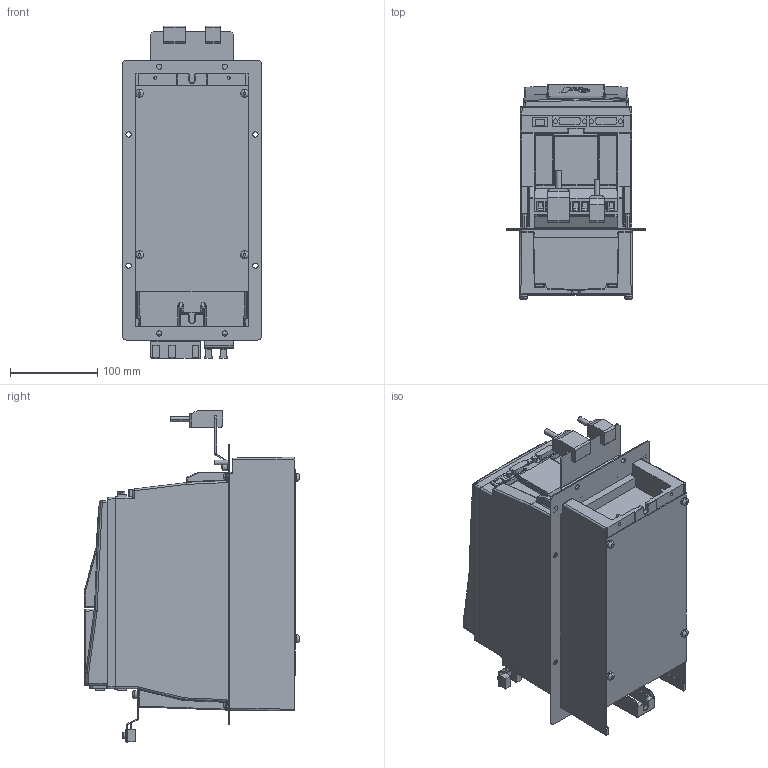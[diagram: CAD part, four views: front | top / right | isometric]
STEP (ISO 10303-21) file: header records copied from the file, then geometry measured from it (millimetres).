
FILE_DESCRIPTION (( 'STEP AP214' ), '1' );
FILE_NAME ('F6-2TR5-A0311.STEP', '2020-11-26T14:52:43', ( '' ), ( '' ), 'SwSTEP 2.0', 'SolidWorks 2019', '' );
FILE_SCHEMA (( 'AUTOMOTIVE_DESIGN' ));
Length unit declared in the file: millimetre
Products named in the file (1): F6-2TR5-A0311
Bounding box: 160 x 245.65 x 379.5 mm (x, y, z)
Volume: 7200044.5 mm3; surface area: 374014.2 mm2
Topology: 4 solids, 4 shells, 1570 faces, 3900 edges, 2359 vertices
Faces by surface type: plane 740, cylinder 462, bspline 225, torus 65, sphere 50, cone 28
Entity records: 53905 total; most frequent: CARTESIAN_POINT 18582, ORIENTED_EDGE 7672, DIRECTION 6789, EDGE_CURVE 3836, VERTEX_POINT 2359, AXIS2_PLACEMENT_3D 2283, VECTOR 2223, LINE 2223
